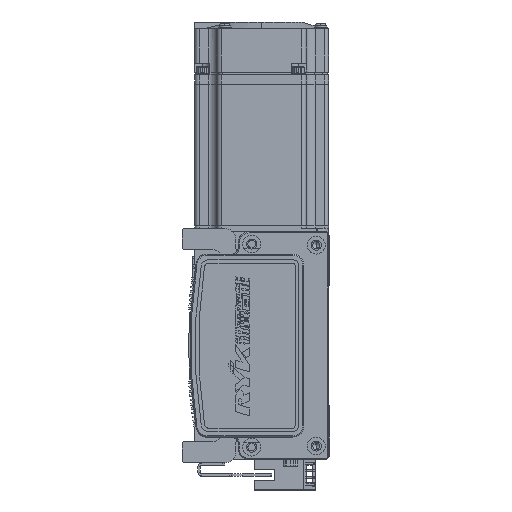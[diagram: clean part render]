
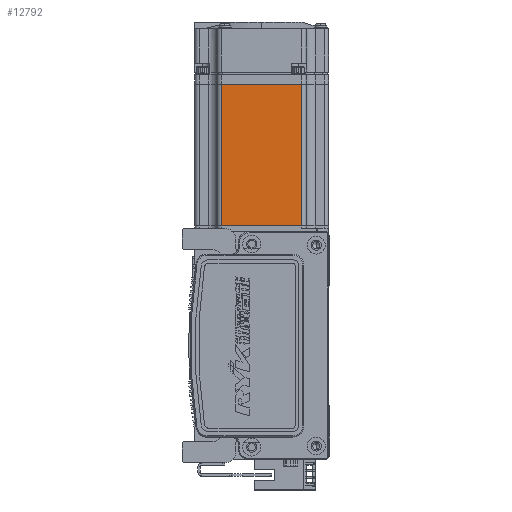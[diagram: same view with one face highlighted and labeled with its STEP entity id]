
A CAD part, left-side view. The second image highlights one B-rep face of the part: STEP entity #12792.
In plain terms, the highlighted planar face has unit normal (-1, 0, 0) as drawn and (0, 0, -1) by its records, which use the part's own axes.
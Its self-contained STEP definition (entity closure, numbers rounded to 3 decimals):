
#1322 = AXIS2_PLACEMENT_3D ( 'NONE', #35477, #8045, #68211 ) ;
#2017 = PLANE ( 'NONE',  #1322 ) ;
#4692 = EDGE_LOOP ( 'NONE', ( #30228, #57782, #59619, #20546 ) ) ;
#5771 = DIRECTION ( 'NONE',  ( 0., -1., 0. ) ) ;
#5776 = DIRECTION ( 'NONE',  ( -1., 0., 0. ) ) ;
#8045 = DIRECTION ( 'NONE',  ( 0., 0., -1. ) ) ;
#8546 = CARTESIAN_POINT ( 'NONE',  ( -70.95, -18., -30. ) ) ;
#12792 = ADVANCED_FACE ( 'NONE', ( #58522 ), #2017, .T. ) ;
#13947 = EDGE_CURVE ( 'NONE', #16832, #38362, #50581, .T. ) ;
#15520 = VECTOR ( 'NONE', #5771, 1000. ) ;
#16832 = VERTEX_POINT ( 'NONE', #36103 ) ;
#18669 = CARTESIAN_POINT ( 'NONE',  ( -70.95, 25., -30. ) ) ;
#20527 = EDGE_CURVE ( 'NONE', #27336, #48373, #71012, .T. ) ;
#20546 = ORIENTED_EDGE ( 'NONE', *, *, #20527, .T. ) ;
#21358 = CARTESIAN_POINT ( 'NONE',  ( -7.75, 18., -30. ) ) ;
#27336 = VERTEX_POINT ( 'NONE', #39781 ) ;
#30228 = ORIENTED_EDGE ( 'NONE', *, *, #42569, .T. ) ;
#31722 = EDGE_CURVE ( 'NONE', #38362, #27336, #68810, .T. ) ;
#35477 = CARTESIAN_POINT ( 'NONE',  ( -6.5, 25., -30. ) ) ;
#36103 = CARTESIAN_POINT ( 'NONE',  ( -7.75, -18., -30. ) ) ;
#37021 = LINE ( 'NONE', #66210, #15520 ) ;
#38362 = VERTEX_POINT ( 'NONE', #8546 ) ;
#39781 = CARTESIAN_POINT ( 'NONE',  ( -70.95, 18., -30. ) ) ;
#40052 = DIRECTION ( 'NONE',  ( 0., 1., 0. ) ) ;
#42569 = EDGE_CURVE ( 'NONE', #48373, #16832, #37021, .T. ) ;
#48373 = VERTEX_POINT ( 'NONE', #21358 ) ;
#48392 = CARTESIAN_POINT ( 'NONE',  ( -6.5, 18., -30. ) ) ;
#49901 = VECTOR ( 'NONE', #40052, 1000. ) ;
#50581 = LINE ( 'NONE', #55574, #56562 ) ;
#55574 = CARTESIAN_POINT ( 'NONE',  ( -6.5, -18., -30. ) ) ;
#56370 = VECTOR ( 'NONE', #65515, 1000. ) ;
#56562 = VECTOR ( 'NONE', #5776, 1000. ) ;
#57782 = ORIENTED_EDGE ( 'NONE', *, *, #13947, .T. ) ;
#58522 = FACE_OUTER_BOUND ( 'NONE', #4692, .T. ) ;
#59619 = ORIENTED_EDGE ( 'NONE', *, *, #31722, .T. ) ;
#65515 = DIRECTION ( 'NONE',  ( 1., 0., 0. ) ) ;
#66210 = CARTESIAN_POINT ( 'NONE',  ( -7.75, 25., -30. ) ) ;
#68211 = DIRECTION ( 'NONE',  ( -1., 0., 0. ) ) ;
#68810 = LINE ( 'NONE', #18669, #49901 ) ;
#71012 = LINE ( 'NONE', #48392, #56370 ) ;
